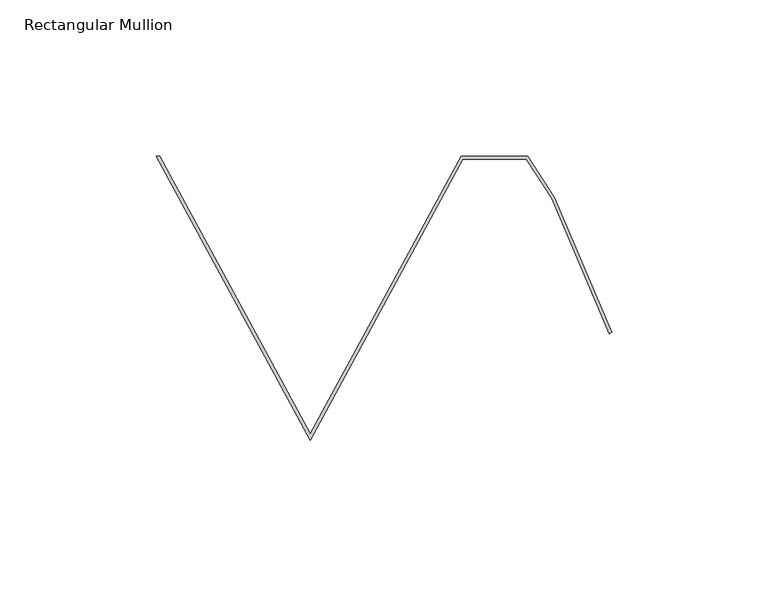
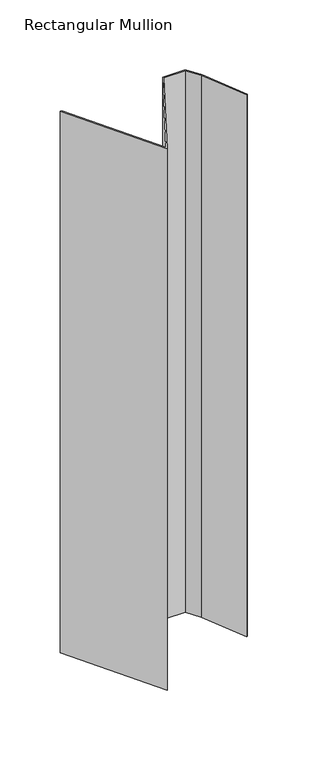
"""IFC4 building model written with IfcOpenShell, lengths in millimetres: member geometry, Rectangular Mullion : CD_NINELINE_Pleat Start."""

from ifc_helpers import new_model, si_unit, frame, origin, place, context, project, spatial, polyline, outline, extrude, source, transform, mapped, element, save


def rectangular_mullion_4509f283(model_context):
    return source(origin(), model_context, "Body", "SweptSolid", [
        extrude(outline(polyline([(-47.7222764, -1.0), (-96.5882894, -91.0), (-145.997258, 0.0), (-144.856794, 0.0), (-96.5882329, -88.9012056), (-48.3196718, 0.0), (-26.9107882, 0.0), (-18.3986164, -13.1078083), (0.0, -56.4531277), (-0.9204563, -56.8438302), (-19.2850663, -13.5795203), (-27.4543023, -1.0), (-47.7222764, -1.0)])), frame((0.0, 0.0, -547.0), z_axis=(0.0, 0.0, 1.0), x_axis=(1.0, 0.0, 0.0)), (0.0, 0.0, 1.0), 547.0),
    ])


if __name__ == "__main__":
    model = new_model("IFC4")
    model_context = context("Model", 3, world=origin())
    ifc_project = project(units=[si_unit("LENGTHUNIT", "METRE", prefix="MILLI")], contexts=[model_context])
    site = spatial("IfcSite", under=ifc_project)
    building = spatial("IfcBuilding", under=site)
    placement = place(None, origin())
    rectangular_mullion_shape = rectangular_mullion_4509f283(model_context)
    element("IfcMember", 1, ObjectType="Rectangular Mullion : CD_NINELINE_Pleat Start", at=placement, inside=building, context=model_context, shape_type="MappedRepresentation", body=[
        mapped(rectangular_mullion_shape, transform((0.0, 0.0, 0.0), x_axis=(1.0, 0.0, 0.0), y_axis=(0.0, 1.0, 0.0), z_axis=(0.0, 0.0, 1.0))),
    ])
    save(model, "model.ifc")
